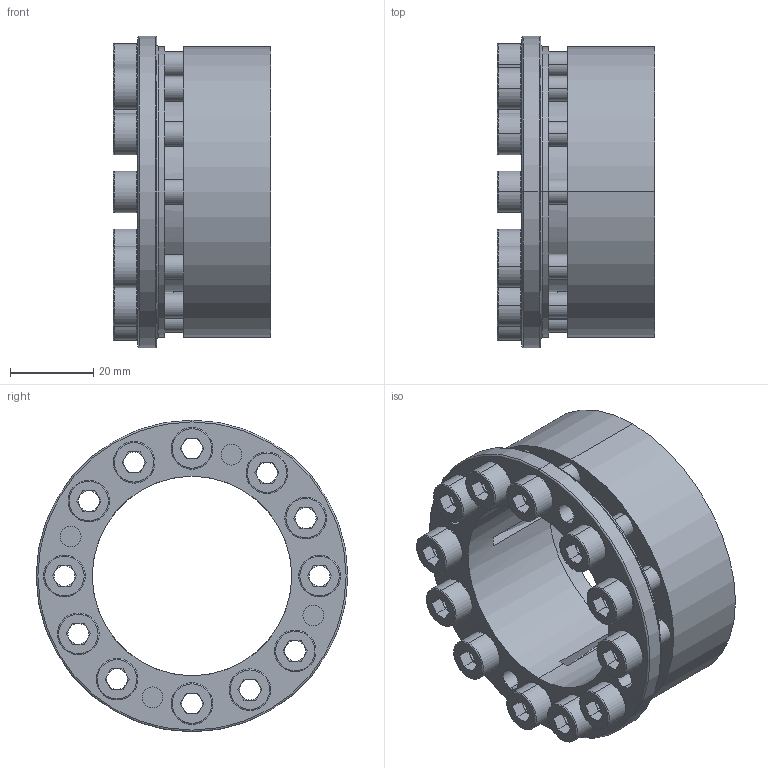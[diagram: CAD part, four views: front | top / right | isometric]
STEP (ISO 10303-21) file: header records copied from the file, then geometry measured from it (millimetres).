
FILE_DESCRIPTION (( 'STEP AP203' ), '1' );
FILE_NAME ('SAPL-A-48-70.STEP', '2018-04-24T07:57:09', ( '' ), ( '' ), 'SwSTEP 2.0', 'SolidWorks 2015', '' );
FILE_SCHEMA (( 'CONFIG_CONTROL_DESIGN' ));
Length unit declared in the file: millimetre
Products named in the file (1): SAPL-A-48-70
Bounding box: 38 x 75 x 75 mm (x, y, z)
Surface area: 34682.6 mm2 (no closed solid volume)
Topology: 0 solids, 26 shells, 357 faces, 908 edges, 556 vertices
Faces by surface type: plane 165, cylinder 136, torus 54, cone 2
Entity records: 10924 total; most frequent: DIRECTION 2066, CARTESIAN_POINT 1882, ORIENTED_EDGE 1666, EDGE_CURVE 908, AXIS2_PLACEMENT_3D 808, VERTEX_POINT 556, LINE 450, CIRCLE 450
